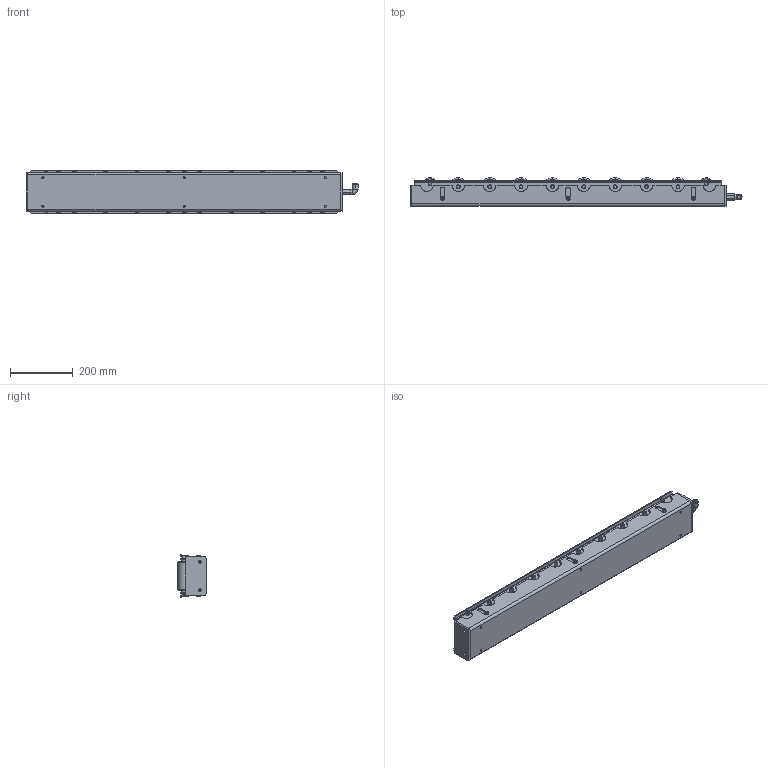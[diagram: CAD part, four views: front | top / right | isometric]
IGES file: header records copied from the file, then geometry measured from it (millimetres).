
Start section: 3D InterOp IGES (Version 21 0 2), Spatial Corp. Copyright (c) 1999-2007.
Global section: file name: ALR-PR-571008M_L.igs; native system: Spatial Corp.; preprocessor: 3D InterOp GENERIC/IGES 3.0; author: Noname; organization: Noname; date: 20130321.140404; units: millimetre
Bounding box: 1058 x 90.05 x 135 mm (x, y, z)
Surface area: 1255934 mm2 (no closed solid volume)
Topology: 0 solids, 0 shells, 764 faces, 4990 edges, 4978 vertices
Faces by surface type: bspline 764
